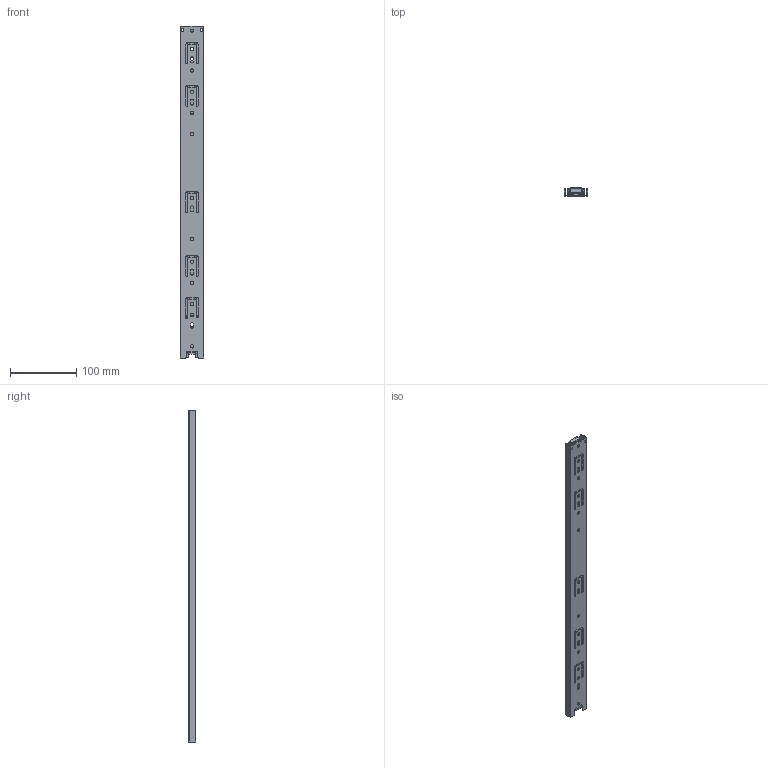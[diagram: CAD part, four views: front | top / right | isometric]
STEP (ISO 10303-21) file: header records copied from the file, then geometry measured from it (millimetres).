
FILE_DESCRIPTION(/* description */ (''),/* implementation_level */ '2;1');
FILE_NAME(/* name */ 'C:\Users\dmitruk\Documents\WORK\\X2\041D0410041F042004100412041B042F042E042904180415\X0\\Шариковые\h35 L-500 AKS LIGHT.stp',/* time_stamp */ '2020-07-27T15:04:26+03:00',/* author */ ('dmitruk'),/* organization */ (''),/* preprocessor_version */ 'ST-DEVELOPER v16.5',/* originating_system */ 'Autodesk Inventor 2017',/* authorisation */ '');
FILE_SCHEMA (('AUTOMOTIVE_DESIGN { 1 0 10303 214 3 1 1 }'));
Length unit declared in the file: millimetre
Products named in the file (5): h35 L-500 AKS LIGHT; h35 L-500 AKS_11; h35 L-500 AKS_12; h35 L-500_13; h35 L-500 AKS_2
Assembly tree (4 placements, depth 2):
  h35 L-500 AKS LIGHT
    h35 L-500 AKS_11
    h35 L-500 AKS_12
    h35 L-500_13
    h35 L-500 AKS_2
Bounding box: 35 x 12.02 x 500 mm (x, y, z)
Volume: 65205.1 mm3; surface area: 132161.7 mm2
Topology: 4 solids, 4 shells, 763 faces, 2242 edges, 1530 vertices
Faces by surface type: plane 423, cylinder 284, sphere 56
Full cylindrical faces by diameter (mm): 4.5 x4, 4.9 x12
Entity records: 26033 total; most frequent: CARTESIAN_POINT 4804, DIRECTION 4463, ORIENTED_EDGE 4358, EDGE_CURVE 2179, AXIS2_PLACEMENT_3D 1498, LINE 1467, VECTOR 1467, VERTEX_POINT 1439
